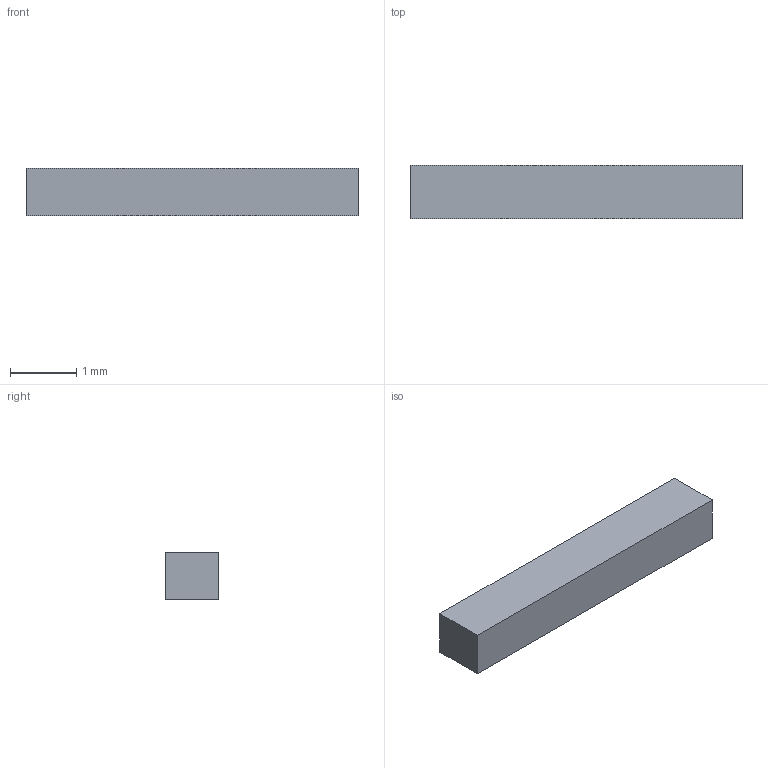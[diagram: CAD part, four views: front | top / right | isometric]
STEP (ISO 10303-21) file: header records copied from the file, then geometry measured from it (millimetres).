
FILE_DESCRIPTION(('Open CASCADE Model'),'2;1');
FILE_NAME('C27_UC1_PCB_Rear_Preload_3','2026-09-09T20:28:18',('Author'), ('Open CASCADE'),'Open CASCADE STEP processor 7.9','build123d', 'Unknown');
FILE_SCHEMA(('AUTOMOTIVE_DESIGN { 1 0 10303 214 1 1 1 1 }'));
Length unit declared in the file: millimetre
Products named in the file (1): C27_UC1_PCB_Rear_Preload_3
Bounding box: 5 x 0.8 x 0.71 mm (x, y, z)
Volume: 2.8 mm3; surface area: 16.2 mm2
Topology: 1 solids, 1 shells, 6 faces, 12 edges, 8 vertices
Faces by surface type: plane 6
Entity records: 322 total; most frequent: CARTESIAN_POINT 51, DIRECTION 50, LINE 36, VECTOR 36, ORIENTED_EDGE 24, PCURVE 24, DEFINITIONAL_REPRESENTATION 24, EDGE_CURVE 12
